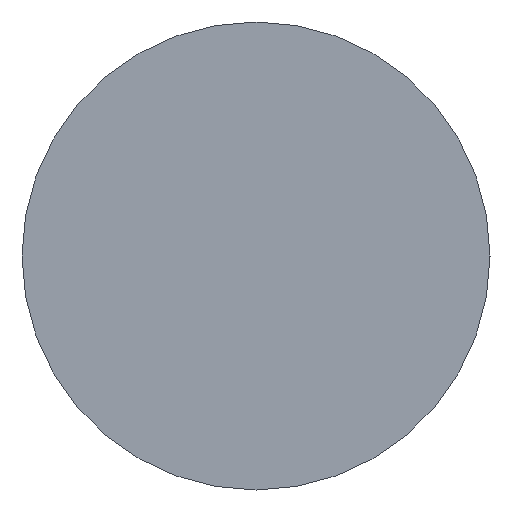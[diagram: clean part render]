
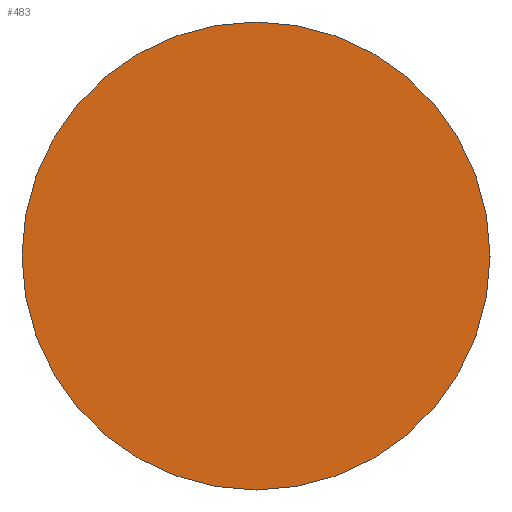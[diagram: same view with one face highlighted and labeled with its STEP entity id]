
A CAD part, left-side view. The second image highlights one B-rep face of the part: STEP entity #483.
In plain terms, the highlighted planar face has unit normal (-1, 0, 0).
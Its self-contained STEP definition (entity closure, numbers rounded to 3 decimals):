
#16=PLANE('',#555);
#44=FACE_OUTER_BOUND('',#68,.T.);
#68=EDGE_LOOP('',(#380,#381));
#143=CIRCLE('',#556,4.);
#144=CIRCLE('',#557,4.);
#202=VERTEX_POINT('',#865);
#203=VERTEX_POINT('',#866);
#268=EDGE_CURVE('',#202,#203,#143,.T.);
#269=EDGE_CURVE('',#203,#202,#144,.T.);
#380=ORIENTED_EDGE('',*,*,#268,.F.);
#381=ORIENTED_EDGE('',*,*,#269,.F.);
#483=ADVANCED_FACE('',(#44),#16,.T.);
#555=AXIS2_PLACEMENT_3D('',#864,#689,#690);
#556=AXIS2_PLACEMENT_3D('',#867,#691,#692);
#557=AXIS2_PLACEMENT_3D('',#868,#693,#694);
#689=DIRECTION('center_axis',(-1.,0.,0.));
#690=DIRECTION('ref_axis',(0.,0.,1.));
#691=DIRECTION('center_axis',(1.,0.,0.));
#692=DIRECTION('ref_axis',(0.,0.,-1.));
#693=DIRECTION('center_axis',(1.,0.,0.));
#694=DIRECTION('ref_axis',(0.,0.,-1.));
#864=CARTESIAN_POINT('Origin',(0.,4.,0.));
#865=CARTESIAN_POINT('',(0.,4.,0.));
#866=CARTESIAN_POINT('',(0.,-4.,0.));
#867=CARTESIAN_POINT('Origin',(0.,0.,0.));
#868=CARTESIAN_POINT('Origin',(0.,0.,0.));
